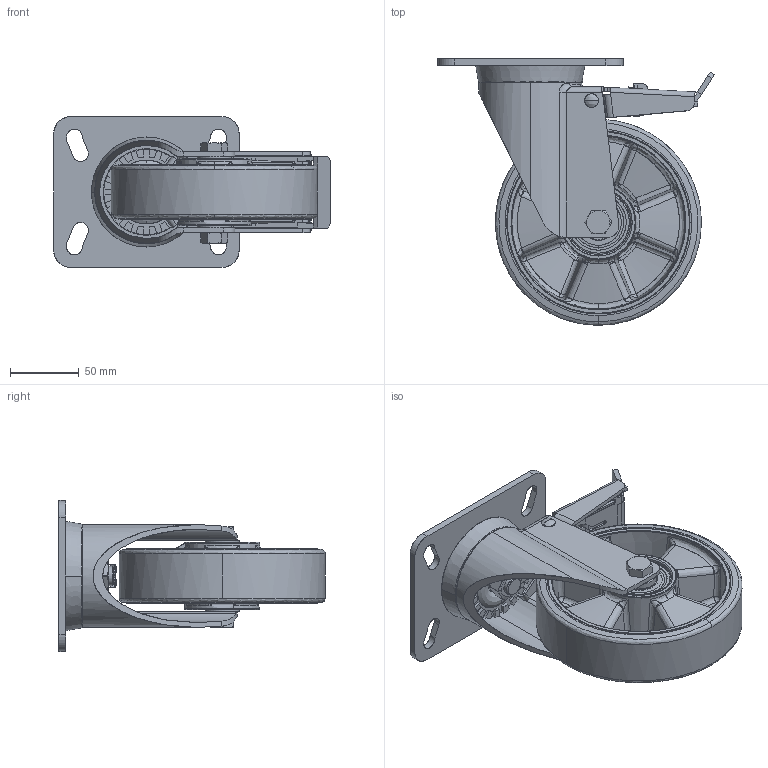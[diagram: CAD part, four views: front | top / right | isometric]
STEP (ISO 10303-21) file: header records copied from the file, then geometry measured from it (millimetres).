
FILE_DESCRIPTION(('STEP AP203'),'2;1');
FILE_NAME('25866FR_CL.stp','2010-04-30T10:49:29',(''),(''),'2009.1.108','THINKDESIGN','');
FILE_SCHEMA(('CONFIG_CONTROL_DESIGN'));
Length unit declared in the file: millimetre
Bounding box: 201.38 x 194.1 x 110 mm (x, y, z)
Volume: 153236.1 mm3; surface area: 221463.8 mm2
Topology: 6 solids, 6 shells, 804 faces, 4086 edges, 3965 vertices
Faces by surface type: bspline 352, plane 277, cylinder 175
Full cylindrical faces by diameter (mm): 8.5 x1, 10 x1, 11 x1, 20 x1, 21 x2, 25 x2
Entity records: 71983 total; most frequent: CARTESIAN_POINT 54201, COMPOSITE_CURVE_SEGMENT 3861, DIRECTION 3091, TRIMMED_CURVE 1742, B_SPLINE_CURVE_WITH_KNOTS 1573, VECTOR 1485, LINE 1485, AXIS2_PLACEMENT_3D 803
